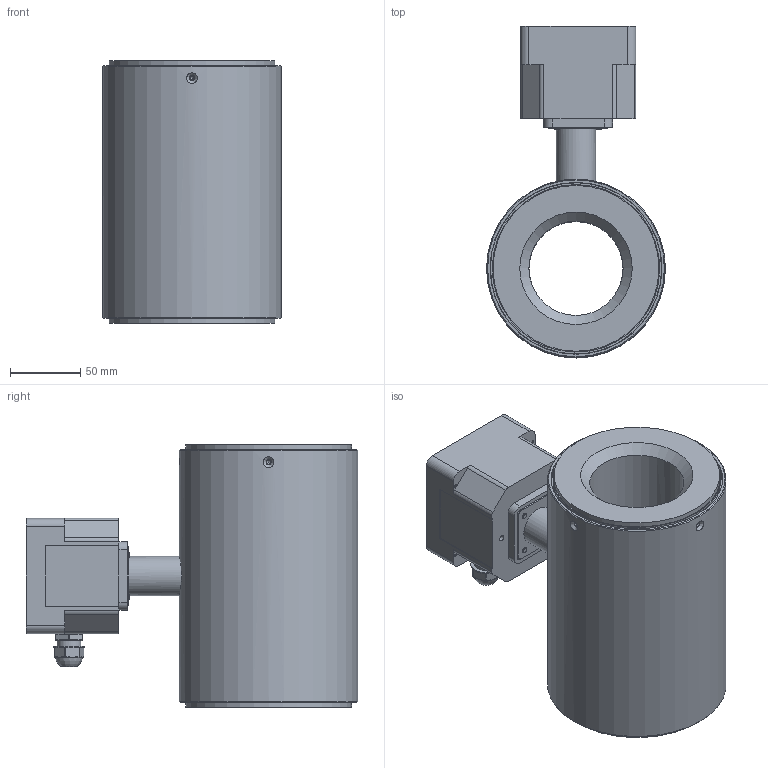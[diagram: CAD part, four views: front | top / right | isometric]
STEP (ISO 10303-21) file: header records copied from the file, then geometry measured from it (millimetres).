
FILE_DESCRIPTION(/* description */ (''),/* implementation_level */ '2;1');
FILE_NAME(/* name */ 'D:\ТЭК\01 Михайлычев\ПРЭМ\Модели для сайта\100F\Workspaces\Рабочее пространство\Разработка 65S\ПРЭМ-65S.stp',/* time_stamp */ '2022-06-24T08:47:57+03:00',/* author */ ('d.mihailichev'),/* organization */ (''),/* preprocessor_version */ 'ST-DEVELOPER v18.1',/* originating_system */ 'Autodesk Inventor 2020',/* authorisation */ '');
FILE_SCHEMA (('AUTOMOTIVE_DESIGN { 1 0 10303 214 3 1 1 }'));
Products named in the file (1): ПРЭМ-65S
Bounding box: 127 x 236 x 187 mm (x, y, z)
Volume: 821287.1 mm3; surface area: 364751.3 mm2
Topology: 5 solids, 25 shells, 2246 faces, 5892 edges, 3788 vertices
Faces by surface type: plane 1323, bspline 457, cylinder 322, cone 60, sphere 60, torus 24
Full cylindrical faces by diameter (mm): 0.431 x1, 0.546 x1, 1.159 x2, 1.5 x2, 1.7 x4, 1.8 x4, 2.5 x4, 2.8 x4, 3.242 x4, 3.6 x4, 4 x12, 4.2 x1, 4.5 x4, 4.7 x4, 5 x2, 5.472 x1, 5.5 x7, 7 x8, 7.5 x4, 8.5 x4, 11 x8, 12 x2, 13 x2, 14 x2, 15 x1, 17 x6, 18 x1, 19.094 x2, 20.5 x1, 21 x1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
Entity records: 78859 total; most frequent: CARTESIAN_POINT 24042, ORIENTED_EDGE 11598, DIRECTION 9323, EDGE_CURVE 5799, LINE 3861, VECTOR 3861, VERTEX_POINT 3795, AXIS2_PLACEMENT_3D 2731
